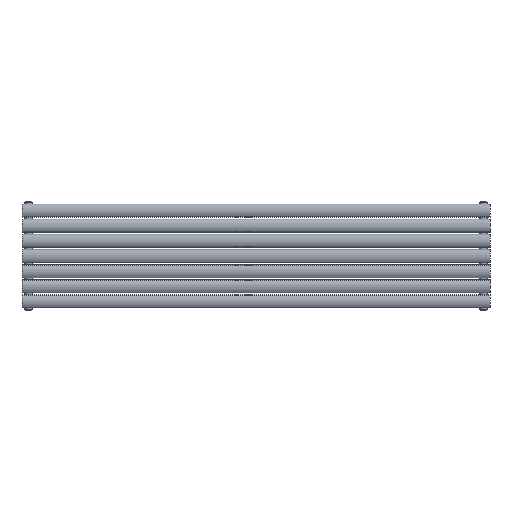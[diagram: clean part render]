
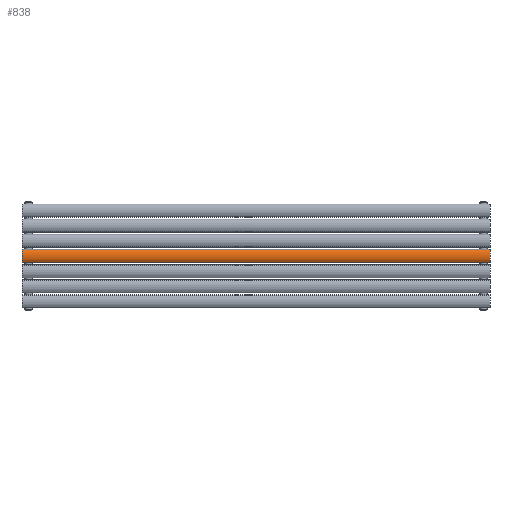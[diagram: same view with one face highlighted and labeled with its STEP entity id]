
A CAD part, top view. The second image highlights one B-rep face of the part: STEP entity #838.
In plain terms, the highlighted cylindrical face has radius 39.5 mm (diameter 79 mm), a partial arc.
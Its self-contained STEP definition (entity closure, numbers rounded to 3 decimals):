
#111=LINE('',#1985,#143);
#112=LINE('',#1989,#144);
#143=VECTOR('',#1088,10.);
#144=VECTOR('',#1091,10.);
#221=CIRCLE('',#939,39.5);
#222=CIRCLE('',#940,39.5);
#301=FACE_OUTER_BOUND('',#374,.T.);
#374=EDGE_LOOP('',(#687,#688,#689,#690));
#472=VERTEX_POINT('',#1983);
#473=VERTEX_POINT('',#1984);
#474=VERTEX_POINT('',#1986);
#475=VERTEX_POINT('',#1988);
#552=EDGE_CURVE('',#472,#473,#111,.T.);
#553=EDGE_CURVE('',#474,#472,#221,.T.);
#554=EDGE_CURVE('',#475,#474,#112,.T.);
#555=EDGE_CURVE('',#473,#475,#222,.T.);
#687=ORIENTED_EDGE('',*,*,#552,.F.);
#688=ORIENTED_EDGE('',*,*,#553,.F.);
#689=ORIENTED_EDGE('',*,*,#554,.F.);
#690=ORIENTED_EDGE('',*,*,#555,.F.);
#812=CYLINDRICAL_SURFACE('',#938,39.5);
#838=ADVANCED_FACE('',(#301),#812,.T.);
#938=AXIS2_PLACEMENT_3D('',#1982,#1086,#1087);
#939=AXIS2_PLACEMENT_3D('',#1987,#1089,#1090);
#940=AXIS2_PLACEMENT_3D('',#1990,#1092,#1093);
#1086=DIRECTION('center_axis',(0.,0.,1.));
#1087=DIRECTION('ref_axis',(-0.552,-0.834,0.));
#1088=DIRECTION('',(0.,0.,-1.));
#1089=DIRECTION('center_axis',(0.,0.,1.));
#1090=DIRECTION('ref_axis',(-0.552,-0.834,0.));
#1091=DIRECTION('',(0.,0.,1.));
#1092=DIRECTION('center_axis',(0.,0.,-1.));
#1093=DIRECTION('ref_axis',(-0.552,-0.834,0.));
#1982=CARTESIAN_POINT('Origin',(0.,14.5,0.));
#1983=CARTESIAN_POINT('',(21.816,-18.429,900.));
#1984=CARTESIAN_POINT('',(21.816,-18.429,-900.));
#1985=CARTESIAN_POINT('',(21.816,-18.429,0.));
#1986=CARTESIAN_POINT('',(-21.816,-18.429,900.));
#1987=CARTESIAN_POINT('Origin',(0.,14.5,900.));
#1988=CARTESIAN_POINT('',(-21.816,-18.429,-900.));
#1989=CARTESIAN_POINT('',(-21.816,-18.429,0.));
#1990=CARTESIAN_POINT('Origin',(0.,14.5,-900.));
